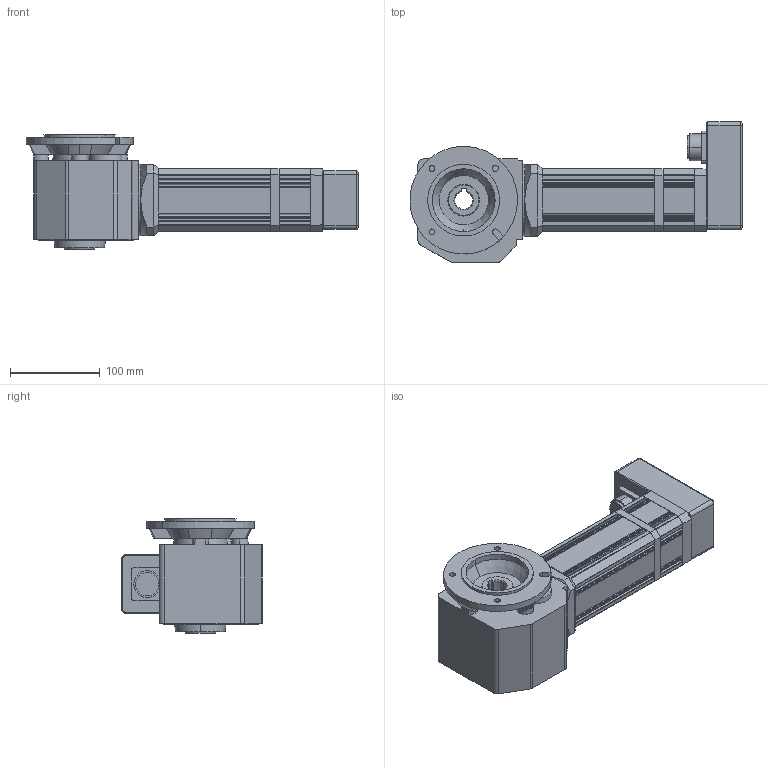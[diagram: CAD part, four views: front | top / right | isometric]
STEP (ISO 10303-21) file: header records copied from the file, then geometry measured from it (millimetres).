
FILE_DESCRIPTION(('OneSpaceDesigner STEP Export'),'2;1');
FILE_NAME('UECG313THL_ZBF45_F.stp','2008-06-27T 9:24:02',(''),(''),'OneSpace Designer STEP processor (Jan. 2003) for AP214(CD)(Solid Model)','OneSpace Designer 12.01D 09-Jul-2004 (C) CoCreate Software GmbH','');
FILE_SCHEMA(('AUTOMOTIVE_DESIGN_CC2 {1 2 10303 214 -1 1 5 1}'));
Length unit declared in the file: millimetre
Products named in the file (2): UECG313THL_ZBF45_F
Assembly tree (1 placements, depth 2):
  UECG313THL_ZBF45_F
    UECG313THL_ZBF45_F
Bounding box: 369.84 x 156.5 x 128 mm (x, y, z)
Volume: 2540485.9 mm3; surface area: 200395.4 mm2
Topology: 1 solids, 1 shells, 457 faces, 1232 edges, 790 vertices
Faces by surface type: plane 232, cylinder 176, cone 22, bspline 19, torus 8
Entity records: 22109 total; most frequent: CARTESIAN_POINT 11222, ORIENTED_EDGE 2464, DIRECTION 2035, EDGE_CURVE 1232, VERTEX_POINT 790, VECTOR 697, LINE 697, AXIS2_PLACEMENT_3D 669
